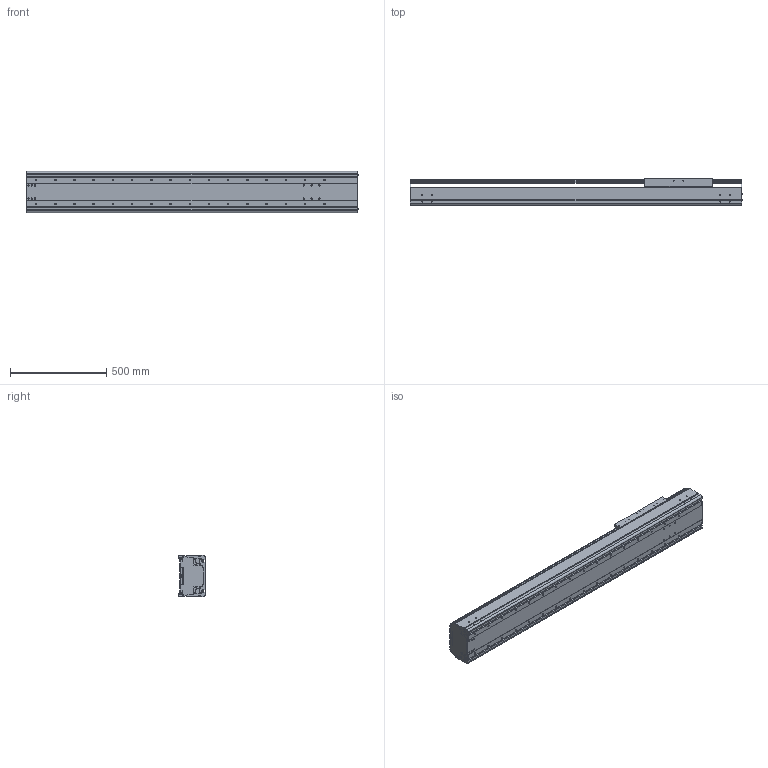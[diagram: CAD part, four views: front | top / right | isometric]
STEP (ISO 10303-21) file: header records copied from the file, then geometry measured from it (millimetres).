
FILE_DESCRIPTION((''),'2;1');
FILE_NAME('BE60J-ST-L_B-B5_IGS_PRT','2017-06-18T',(' '),(''),'PRO/ENGINEER BY PARAMETRIC TECHNOLOGY CORPORATION, 2015030','PRO/ENGINEER BY PARAMETRIC TECHNOLOGY CORPORATION, 2015030','');
FILE_SCHEMA(('CONFIG_CONTROL_DESIGN'));
Length unit declared in the file: millimetre
Products named in the file (1): BE60J-ST-L_B-B5_IGS_PRT
Bounding box: 1727.4 x 140 x 214 mm (x, y, z)
Volume: 13816280.6 mm3; surface area: 3643095.7 mm2
Topology: 2 solids, 32 shells, 1149 faces, 3037 edges, 1955 vertices
Faces by surface type: plane 533, cylinder 508, cone 60, sphere 24, torus 24
Entity records: 35905 total; most frequent: CARTESIAN_POINT 6708, DIRECTION 6266, ORIENTED_EDGE 5840, EDGE_CURVE 2976, AXIS2_PLACEMENT_3D 2258, VERTEX_POINT 1952, VECTOR 1750, LINE 1750
